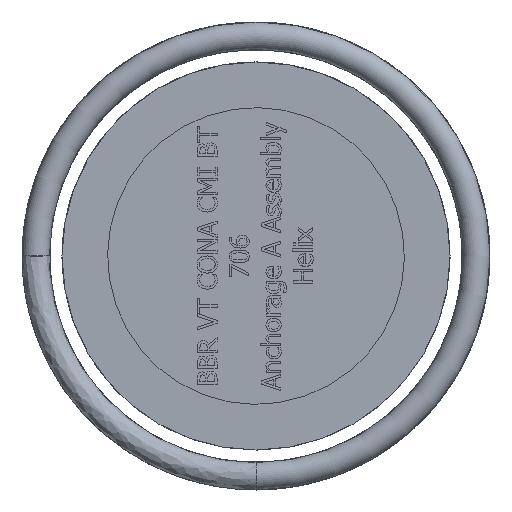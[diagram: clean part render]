
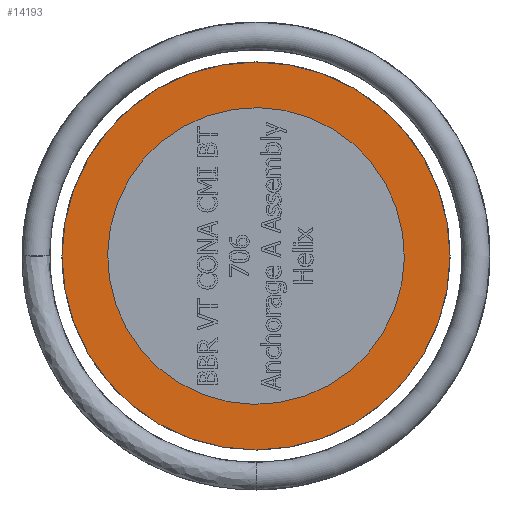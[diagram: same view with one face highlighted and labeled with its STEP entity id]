
A CAD part, left-side view. The second image highlights one B-rep face of the part: STEP entity #14193.
In plain terms, the highlighted planar face has unit normal (-1, 0, 0).
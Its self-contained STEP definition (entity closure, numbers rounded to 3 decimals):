
#99=CIRCLE('',#14685,65.);
#102=CIRCLE('',#14690,85.);
#332=FACE_BOUND('',#2724,.T.);
#1909=FACE_OUTER_BOUND('',#2723,.T.);
#2723=EDGE_LOOP('',(#11918));
#2724=EDGE_LOOP('',(#11919));
#6346=VERTEX_POINT('',#25431);
#6349=VERTEX_POINT('',#25440);
#8215=EDGE_CURVE('',#6346,#6346,#99,.T.);
#8219=EDGE_CURVE('',#6349,#6349,#102,.T.);
#11918=ORIENTED_EDGE('',*,*,#8219,.T.);
#11919=ORIENTED_EDGE('',*,*,#8215,.T.);
#12792=PLANE('',#14689);
#14193=ADVANCED_FACE('',(#1909,#332),#12792,.T.);
#14685=AXIS2_PLACEMENT_3D('',#25432,#16804,#16805);
#14689=AXIS2_PLACEMENT_3D('',#25439,#16813,#16814);
#14690=AXIS2_PLACEMENT_3D('',#25441,#16815,#16816);
#16804=DIRECTION('center_axis',(1.,0.,0.));
#16805=DIRECTION('ref_axis',(0.,-0.328,-0.945));
#16813=DIRECTION('center_axis',(-1.,0.,0.));
#16814=DIRECTION('ref_axis',(0.,1.,0.));
#16815=DIRECTION('center_axis',(-1.,0.,0.));
#16816=DIRECTION('ref_axis',(0.,0.,
1.));
#25431=CARTESIAN_POINT('',(50.,21.333,61.399));
#25432=CARTESIAN_POINT('Origin',(50.,0.,
0.));
#25439=CARTESIAN_POINT('Origin',(50.,0.,
66.));
#25440=CARTESIAN_POINT('',(50.,0.,-85.));
#25441=CARTESIAN_POINT('Origin',(50.,0.,
0.));
